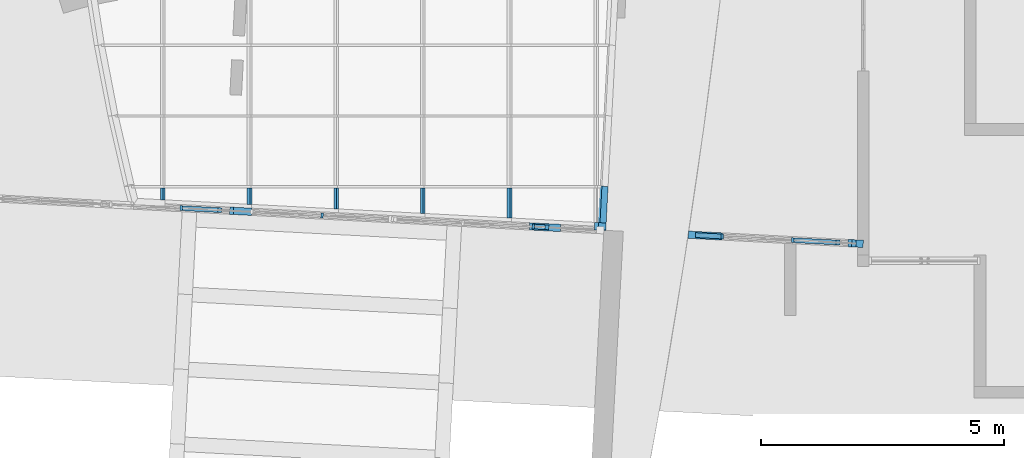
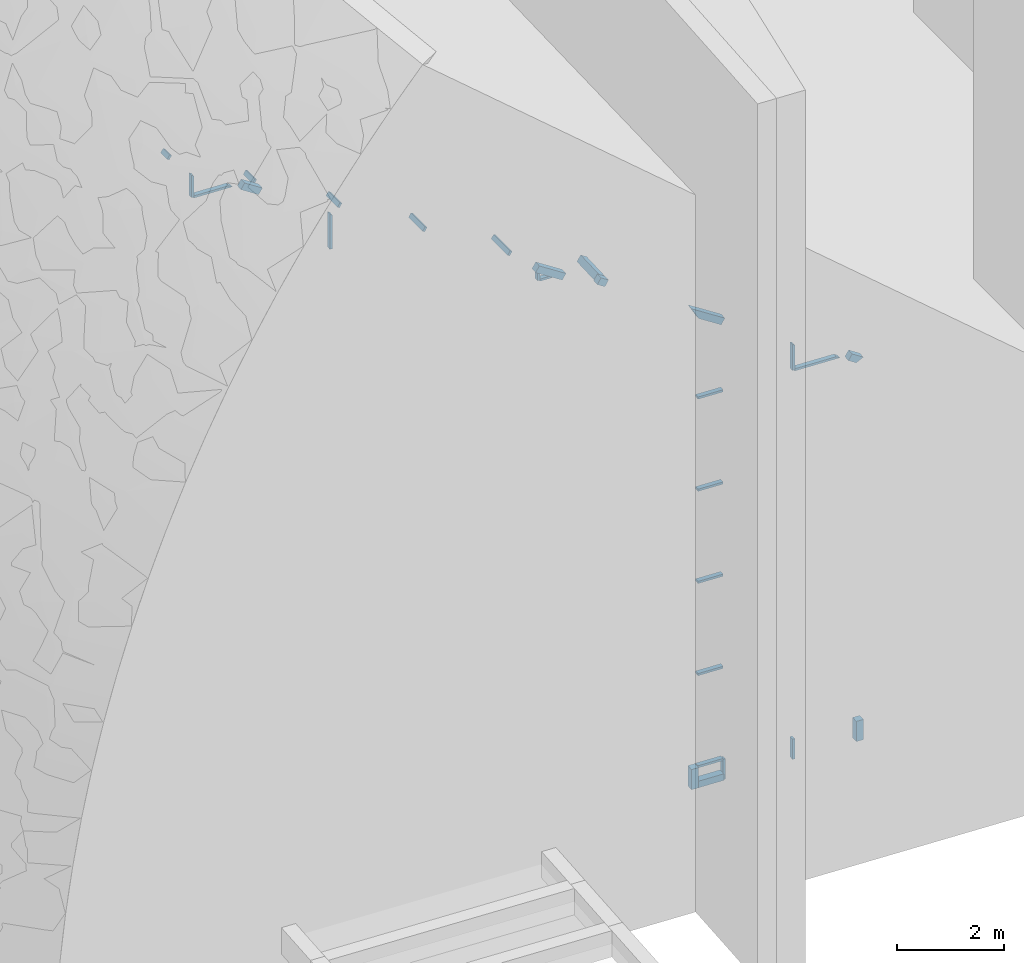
# One storey, part 24 of 82: 28 members, 2 elements without a shape of their own.
"""IFC2X3 building model written with IfcOpenShell, lengths in millimetres."""

import ifcopenshell
import ifcopenshell.guid

model = None  # the IFC model being written
_history = None  # IfcOwnerHistory: only IFC2X3 demands one
_inside = {}  # id of a spatial element -> (the spatial element, [elements in it])
_under = {}  # id of a project, library or spatial element -> (it, [spatial elements below it])
_declared = {}  # id of a project -> (the project, [libraries it declares])
_typed = {}  # id of a type object -> (the type object, [elements of that type])
_made_of = {}  # id of a material, layer set ... -> (it, [elements and type objects made of it])


def new_model(schema):
    """Start an empty IFC model of exactly this schema.

    Asked for "IFC4X3", IfcOpenShell would pick the latest addendum, in which some entities
    have other attributes; the version numbers below select the first issue.
    IFC2X3 requires an IfcOwnerHistory on every rooted entity: one is made here for all.
    """
    global model, _history
    if schema == "IFC4X3":
        model = ifcopenshell.file(schema_version=(4, 3, 0, 0))
    else:
        model = ifcopenshell.file(schema=schema)
    _inside.clear()
    _under.clear()
    _declared.clear()
    _typed.clear()
    _made_of.clear()
    _history = None
    if model.schema == "IFC2X3":
        org = make("IfcOrganization", Name="unknown")
        user = make(
            "IfcPersonAndOrganization",
            ThePerson=make("IfcPerson", FamilyName="unknown"),
            TheOrganization=org,
        )
        app = make(
            "IfcApplication",
            ApplicationDeveloper=org,
            Version="unknown",
            ApplicationFullName="unknown",
            ApplicationIdentifier="unknown",
        )
        _history = make(
            "IfcOwnerHistory",
            OwningUser=user,
            OwningApplication=app,
            ChangeAction="ADDED",
            CreationDate=0,
        )
    return model


def make(cls, **values):
    """One entity of the class cls with the attributes given. An attribute that is None is left unset."""
    return model.create_entity(
        cls, **{name: value for name, value in values.items() if value is not None}
    )


def entity(cls, *values):
    """Any entity or typed value of the class cls, its attributes in the order of the schema. None: left unset."""
    e = model.create_entity(cls)
    for i, value in enumerate(values):
        if value is not None:
            e[i] = value
    return e


def rooted(cls, **values):
    """An entity with a GlobalId (a new one), such as an element, a storey or a relation."""
    return make(cls, GlobalId=ifcopenshell.guid.new(), OwnerHistory=_history, **values)


def si_unit(unit_type, name, prefix=None):
    """IfcSIUnit, for example si_unit("LENGTHUNIT", "METRE", prefix="MILLI")."""
    return make("IfcSIUnit", UnitType=unit_type, Prefix=prefix, Name=name)


def converted_unit(unit_type, name, factor, base, dimensions=None, offset=None):
    """IfcConversionBasedUnit, such as the inch: factor (a typed value) times the base unit."""
    return make(
        "IfcConversionBasedUnit"
        if offset is None
        else "IfcConversionBasedUnitWithOffset",
        ConversionOffset=offset,
        Dimensions=None
        if dimensions is None
        else entity("IfcDimensionalExponents", *dimensions),
        UnitType=unit_type,
        Name=name,
        ConversionFactor=make(
            "IfcMeasureWithUnit", ValueComponent=factor, UnitComponent=base
        ),
    )


def derived_unit(unit_type, elements):
    """IfcDerivedUnit: a product of units, each with its exponent."""
    return make(
        "IfcDerivedUnit",
        Elements=[
            make("IfcDerivedUnitElement", Unit=unit, Exponent=power)
            for unit, power in elements
        ],
        UnitType=unit_type,
    )


def assignment(units):
    """IfcUnitAssignment: the units of a project."""
    return None if units is None else make("IfcUnitAssignment", Units=units)


def point(xyz):
    """IfcCartesianPoint."""
    return None if xyz is None else make("IfcCartesianPoint", Coordinates=xyz)


def direction(xyz):
    """IfcDirection."""
    return None if xyz is None else make("IfcDirection", DirectionRatios=xyz)


def frame(location, z_axis=None, x_axis=None):
    """IfcAxis2Placement3D, a coordinate frame: its origin and axes. An axis left out is left unset."""
    return make(
        "IfcAxis2Placement3D",
        Location=point(location),
        Axis=direction(z_axis),
        RefDirection=direction(x_axis),
    )


def frame_2d(location, x_axis=None):
    """IfcAxis2Placement2D, a coordinate frame in the plane: its origin and x axis."""
    return make(
        "IfcAxis2Placement2D", Location=point(location), RefDirection=direction(x_axis)
    )


def origin():
    """The frame at (0, 0, 0) with its axes left unset."""
    return frame((0.0, 0.0, 0.0))


def origin_2d_with_axis():
    """The frame at (0, 0) in the plane with the x axis (1, 0) written out."""
    return frame_2d((0.0, 0.0), x_axis=(1.0, 0.0))


def place(relative_to, where):
    """IfcLocalPlacement: puts the frame where relative to a parent placement (None: the world)."""
    return make(
        "IfcLocalPlacement", PlacementRelTo=relative_to, RelativePlacement=where
    )


def context(
    kind, dimensions, precision=None, world=None, true_north=None, identifier=None
):
    """IfcGeometricRepresentationContext, for example the 3D "Model" context."""
    return make(
        "IfcGeometricRepresentationContext",
        ContextIdentifier=identifier,
        ContextType=kind,
        CoordinateSpaceDimension=dimensions,
        Precision=precision,
        WorldCoordinateSystem=world,
        TrueNorth=true_north,
    )


def subcontext(parent, identifier, kind, view, scale=None):
    """IfcGeometricRepresentationSubContext, for example "Body" below "Model"."""
    return make(
        "IfcGeometricRepresentationSubContext",
        ContextIdentifier=identifier,
        ContextType=kind,
        ParentContext=parent,
        TargetScale=scale,
        TargetView=view,
    )


def project(units=None, contexts=None):
    """IfcProject with its units and contexts."""
    return rooted(
        "IfcProject",
        Name="project",
        RepresentationContexts=contexts,
        UnitsInContext=assignment(units),
    )


def spatial(cls, under=None, at=None, **own):
    """A site, building, storey or space (cls), placed at a placement, below another one or the project."""
    s = rooted(cls, ObjectPlacement=at, **own)
    if under is not None:
        _under.setdefault(under.id(), (under, []))[1].append(s)
    return s


def polyline(points):
    """IfcPolyline through the points."""
    return make("IfcPolyline", Points=[point(p) for p in points])


def profile(cls, at=None, kind="AREA", **sizes):
    """A parametric profile (cls). Its sizes go by their IFC names, for example OverallWidth=200.0."""
    return make(cls, ProfileType=kind, Position=at, **sizes)


def rectangle(**sizes):
    """IfcRectangleProfileDef."""
    return profile("IfcRectangleProfileDef", **sizes)


def extrude(swept, where, along, depth):
    """IfcExtrudedAreaSolid: the profile swept, set in the frame where, extruded along a direction by depth."""
    return make(
        "IfcExtrudedAreaSolid",
        SweptArea=swept,
        Position=where,
        ExtrudedDirection=direction(along),
        Depth=depth,
    )


def clip(a, b, op="DIFFERENCE"):
    """IfcBooleanClippingResult: the solid a cut by the half space b."""
    return make(
        "IfcBooleanClippingResult", Operator=op, FirstOperand=a, SecondOperand=b
    )


def halfspace(plane, agree):
    """IfcHalfSpaceSolid: all space on one side of the plane z = 0 of the frame plane."""
    return make(
        "IfcHalfSpaceSolid",
        BaseSurface=make("IfcPlane", Position=plane),
        AgreementFlag=agree,
    )


def bounded_halfspace(plane, agree, where, boundary):
    """IfcPolygonalBoundedHalfSpace: a half space limited to a polygon's prism."""
    return make(
        "IfcPolygonalBoundedHalfSpace",
        BaseSurface=make("IfcPlane", Position=plane),
        AgreementFlag=agree,
        Position=where,
        PolygonalBoundary=boundary,
    )


def shape(context_of_items, identifier, shape_type, items):
    """IfcShapeRepresentation: the items that make up one representation, for example the "Body"."""
    return make(
        "IfcShapeRepresentation",
        ContextOfItems=context_of_items,
        RepresentationIdentifier=identifier,
        RepresentationType=shape_type,
        Items=items,
    )


def source(mapping_origin, context_of_items, identifier, shape_type, items):
    """IfcRepresentationMap: a shape defined once, which mapped items show again and again."""
    return make(
        "IfcRepresentationMap",
        MappingOrigin=mapping_origin,
        MappedRepresentation=shape(context_of_items, identifier, shape_type, items),
    )


def transform(
    local_origin,
    x_axis=None,
    y_axis=None,
    z_axis=None,
    scale=None,
    scale2=None,
    scale3=None,
    uniform=True,
):
    """IfcCartesianTransformationOperator3D, or its non-uniform kind. x_axis, y_axis, z_axis: its Axis1, 2, 3."""
    if uniform:
        return make(
            "IfcCartesianTransformationOperator3D",
            Axis1=direction(x_axis),
            Axis2=direction(y_axis),
            LocalOrigin=point(local_origin),
            Scale=scale,
            Axis3=direction(z_axis),
        )
    return make(
        "IfcCartesianTransformationOperator3DnonUniform",
        Axis1=direction(x_axis),
        Axis2=direction(y_axis),
        LocalOrigin=point(local_origin),
        Scale=scale,
        Axis3=direction(z_axis),
        Scale2=scale2,
        Scale3=scale3,
    )


def mapped(mapping_source, mapping_target):
    """IfcMappedItem: shows the shape of a source again, moved by a transform."""
    return make(
        "IfcMappedItem", MappingSource=mapping_source, MappingTarget=mapping_target
    )


def material(Name=None, Category=None):
    """IfcMaterial."""
    return make("IfcMaterial", Name=Name, Category=Category)


def made_of(thing, what):
    """Note that an element or type object is made of a material, layer set ...; save() writes the relation."""
    if what is not None:
        _made_of.setdefault(what.id(), (what, []))[1].append(thing)
    return thing


def type_object(cls, material=None, **own):
    """A type object (cls), such as IfcWallType, which elements share."""
    return made_of(rooted(cls, **own), material)


def type_shapes(of_type, sources):
    """Give a type object the sources (RepresentationMaps) that its elements show as mapped items."""
    of_type.RepresentationMaps = sources


def element(
    cls,
    number,
    at=None,
    inside=None,
    cuts=None,
    type_object=None,
    material=None,
    context=None,
    identifier="Body",
    shape_type=None,
    held_by="IfcProductDefinitionShape",
    body=None,
    shapes=None,
    **own,
):
    """One element of the class cls, such as IfcWall. Its Tag is "e" and its number.

    at: its placement. inside: the storey or other place that contains it. cuts: it is an
    opening in that element (IfcRelVoidsElement). A single representation is given by context,
    identifier, shape_type and body (its items); several are given by shapes. held_by: the class
    of the entity that holds the representations. save() writes the other relations.
    """
    e = rooted(cls, Tag="e%d" % number, ObjectPlacement=at, **own)
    if body is not None:
        shapes = [shape(context, identifier, shape_type, body)]
    if shapes is not None:
        e.Representation = make(held_by, Representations=shapes)
    if inside is not None:
        _inside.setdefault(inside.id(), (inside, []))[1].append(e)
    if cuts is not None:
        rooted(
            "IfcRelVoidsElement", RelatingBuildingElement=cuts, RelatedOpeningElement=e
        )
    if type_object is not None:
        _typed.setdefault(type_object.id(), (type_object, []))[1].append(e)
    return made_of(e, material)


def aggregate(whole, parts):
    """IfcRelAggregates: a whole, such as a stair, and the parts it consists of."""
    return rooted("IfcRelAggregates", RelatingObject=whole, RelatedObjects=parts)


def save(model, path):
    """Write the relations noted so far, then the file.

    IfcRelAggregates (storeys below a building ...), IfcRelContainedInSpatialStructure (elements
    in a storey), IfcRelDefinesByType, IfcRelAssociatesMaterial and IfcRelDeclares: one each for
    every whole, place, type object, material and project.
    """
    for whole, parts in _under.values():
        aggregate(whole, parts)
    for where, things in _inside.values():
        rooted(
            "IfcRelContainedInSpatialStructure",
            RelatedElements=things,
            RelatingStructure=where,
        )
    for kind, things in _typed.values():
        rooted("IfcRelDefinesByType", RelatedObjects=things, RelatingType=kind)
    for what, things in _made_of.values():
        rooted("IfcRelAssociatesMaterial", RelatedObjects=things, RelatingMaterial=what)
    for by, libraries in _declared.values():
        rooted("IfcRelDeclares", RelatingContext=by, RelatedDefinitions=libraries)
    model.write(path)


model = new_model("IFC2X3")

# Units and contexts
model_context = context("Model", 3, precision=0.01, world=origin(), true_north=direction((6.12303176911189e-17, 1.0)))
body_context = subcontext(model_context, "Body", "Model", "MODEL_VIEW")
ifc_project = project(units=[si_unit("LENGTHUNIT", "METRE", prefix="MILLI"), si_unit("AREAUNIT", "SQUARE_METRE"), si_unit("VOLUMEUNIT", "CUBIC_METRE"), converted_unit("PLANEANGLEUNIT", "DEGREE", entity("IfcRatioMeasure", 0.0174532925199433), si_unit("PLANEANGLEUNIT", "RADIAN"), dimensions=[0, 0, 0, 0, 0, 0, 0]), si_unit("MASSUNIT", "GRAM", prefix="KILO"), derived_unit("MASSDENSITYUNIT", [(si_unit("MASSUNIT", "GRAM", prefix="KILO"), 1), (si_unit("LENGTHUNIT", "METRE"), -3)]), si_unit("TIMEUNIT", "SECOND"), si_unit("FREQUENCYUNIT", "HERTZ"), si_unit("THERMODYNAMICTEMPERATUREUNIT", "DEGREE_CELSIUS"), derived_unit("THERMALTRANSMITTANCEUNIT", [(si_unit("MASSUNIT", "GRAM", prefix="KILO"), 1), (si_unit("THERMODYNAMICTEMPERATUREUNIT", "KELVIN"), -1), (si_unit("TIMEUNIT", "SECOND"), -3)]), derived_unit("VOLUMETRICFLOWRATEUNIT", [(si_unit("LENGTHUNIT", "METRE"), 3), (si_unit("TIMEUNIT", "SECOND"), -1)]), si_unit("ELECTRICCURRENTUNIT", "AMPERE"), si_unit("ELECTRICVOLTAGEUNIT", "VOLT"), si_unit("POWERUNIT", "WATT"), si_unit("FORCEUNIT", "NEWTON", prefix="KILO"), si_unit("ILLUMINANCEUNIT", "LUX"), si_unit("LUMINOUSFLUXUNIT", "LUMEN"), si_unit("LUMINOUSINTENSITYUNIT", "CANDELA"), derived_unit("USERDEFINED", [(si_unit("MASSUNIT", "GRAM", prefix="KILO"), -1), (si_unit("LENGTHUNIT", "METRE"), -2), (si_unit("TIMEUNIT", "SECOND"), 3), (si_unit("LUMINOUSFLUXUNIT", "LUMEN"), 1)]), derived_unit("LINEARVELOCITYUNIT", [(si_unit("LENGTHUNIT", "METRE"), 1), (si_unit("TIMEUNIT", "SECOND"), -1)]), si_unit("PRESSUREUNIT", "PASCAL"), derived_unit("USERDEFINED", [(si_unit("LENGTHUNIT", "METRE"), -2), (si_unit("MASSUNIT", "GRAM", prefix="KILO"), 1), (si_unit("TIMEUNIT", "SECOND"), -2)])], contexts=[model_context])

# Site, building, storey
site_placement = place(None, origin())
site = spatial("IfcSite", under=ifc_project, at=site_placement, Name="表面", CompositionType="ELEMENT")
building_placement = place(site_placement, origin())
building = spatial("IfcBuilding", under=site, at=building_placement, CompositionType="ELEMENT")
storey_placement = place(building_placement, origin())
storey = spatial("IfcBuildingStorey", under=building, at=storey_placement, Name="1F", CompositionType="ELEMENT", Elevation=0.0)

# Curtain wall, members
curtain_wall_type = type_object("IfcCurtainWallType", Name="幕墙系统:1450 x 2100mm", PredefinedType="NOTDEFINED")
curtain_wall_1_placement = place(storey_placement, origin())
curtain_wall_1 = element("IfcCurtainWall", 1, at=curtain_wall_1_placement, inside=storey, type_object=curtain_wall_type, Name="幕墙系统:1450 x 2100mm", ObjectType="幕墙系统:1450 x 2100mm")
ifc_material_1 = material(Name="木质 - 木材")
member_type_1 = type_object("IfcMemberType", Name="200 x 150mm", PredefinedType="MEMBER")
shared_shape_1 = source(origin(), body_context, "Body", "SweptSolid", [
    extrude(rectangle(XDim=150.0, YDim=150.0, at=origin_2d_with_axis()), frame((-75.0, 0.0, -525.86937942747), z_axis=(0.0, 0.0, 1.0), x_axis=(0.0, -1.0, 0.0)), (0.0, 0.0, 1.0), 525.86937942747),
])
type_shapes(member_type_1, [shared_shape_1])
member_1_placement = place(storey_placement, frame((-17876.3899955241, -28886.2638778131, 0.0), z_axis=(-0.998629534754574, 0.0523359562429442, 0.0), x_axis=(0.0, 0.0, -1.0)))
member_1 = element("IfcMember", 2, at=member_1_placement, type_object=member_type_1, material=ifc_material_1, Name="矩形竖梃:200 x 150mm", ObjectType="200 x 150mm", context=body_context, shape_type="MappedRepresentation", body=[
    mapped(shared_shape_1, transform((0.0, 0.0, 0.0), scale=1.0)),
])
member_type_2 = type_object("IfcMemberType", Name="200 x 150mm", PredefinedType="MEMBER")
shared_shape_2 = source(origin(), body_context, "Body", "Clipping", [
    clip(extrude(rectangle(XDim=150.0, YDim=150.0, at=origin_2d_with_axis()), frame((-75.0, 0.0, -277.654315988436), z_axis=(0.0, 0.0, 1.0), x_axis=(0.0, -1.0, 0.0)), (0.0, 0.0, 1.0), 277.654315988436), halfspace(frame((0.0, -304.800000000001, 0.0), z_axis=(-0.485079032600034, 0.0, 0.874470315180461), x_axis=(-0.874470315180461, 0.0, -0.485079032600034)), False)),
])
type_shapes(member_type_2, [shared_shape_2])
placement_1 = place(building_placement, frame((0.0, 0.0, 6000.0)))
member_2_placement = place(placement_1, frame((-14430.2499126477, -29066.868426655, 2713.2178420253), z_axis=(0.847211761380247, -0.0444004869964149, -0.529396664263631), x_axis=(0.528671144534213, -0.0277064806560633, 0.848374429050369)))
member_2 = element("IfcMember", 3, at=member_2_placement, type_object=member_type_2, material=ifc_material_1, Name="矩形竖梃:200 x 150mm", ObjectType="200 x 150mm", context=body_context, shape_type="MappedRepresentation", body=[
    mapped(shared_shape_2, transform((0.0, 0.0, 0.0), scale=1.0)),
])
member_type_3 = type_object("IfcMemberType", Name="200 x 150mm", PredefinedType="MEMBER")
shared_shape_3 = source(origin(), body_context, "Body", "SweptSolid", [
    extrude(rectangle(XDim=150.0, YDim=150.0, at=origin_2d_with_axis()), frame((-75.0, 0.0, -460.207110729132), z_axis=(0.0, 0.0, 1.0), x_axis=(0.0, -1.0, 0.0)), (0.0, 0.0, 1.0), 460.207110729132),
])
type_shapes(member_type_3, [shared_shape_3])
member_3_placement = place(storey_placement, frame((-14430.2499126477, -29066.868426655, 0.0), z_axis=(0.0, 0.0, -1.0), x_axis=(0.998629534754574, -0.0523359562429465, 0.0)))
member_3 = element("IfcMember", 4, at=member_3_placement, type_object=member_type_3, material=ifc_material_1, Name="矩形竖梃:200 x 150mm", ObjectType="200 x 150mm", context=body_context, shape_type="MappedRepresentation", body=[
    mapped(shared_shape_3, transform((0.0, 0.0, 0.0), scale=1.0)),
])
member_type_4 = type_object("IfcMemberType", Name="200 x 150mm", PredefinedType="MEMBER")
shared_shape_4 = source(origin(), body_context, "Body", "SweptSolid", [
    extrude(rectangle(XDim=150.0, YDim=150.0, at=origin_2d_with_axis()), frame((-75.0, 0.0, -460.207110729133), z_axis=(0.0, 0.0, 1.0), x_axis=(0.0, -1.0, 0.0)), (0.0, 0.0, 1.0), 460.207110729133),
])
type_shapes(member_type_4, [shared_shape_4])
member_4_placement = place(storey_placement, frame((-18026.1844257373, -28878.4134843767, 460.207110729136), z_axis=(0.0, 0.0, 1.0), x_axis=(-0.998629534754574, 0.0523359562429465, 0.0)))
member_4 = element("IfcMember", 5, at=member_4_placement, type_object=member_type_4, material=ifc_material_1, Name="矩形竖梃:200 x 150mm", ObjectType="200 x 150mm", context=body_context, shape_type="MappedRepresentation", body=[
    mapped(shared_shape_4, transform((0.0, 0.0, 0.0), scale=1.0)),
])
ifc_material_2 = material(Name="金属 - 铝")
member_type_5 = type_object("IfcMemberType", Name="50 x 100mm", PredefinedType="MEMBER")
shared_shape_5 = source(origin(), body_context, "Body", "SweptSolid", [
    extrude(rectangle(XDim=100.0, YDim=50.0, at=origin_2d_with_axis()), frame((0.0, 0.0, -460.207110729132), z_axis=(0.0, 0.0, 1.0), x_axis=(0.0, -1.0, 0.0)), (0.0, 0.0, 1.0), 460.207110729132),
])
type_shapes(member_type_5, [shared_shape_5])
member_5_placement = place(storey_placement, frame((-15878.2627380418, -28990.9812901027, 460.207110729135), z_axis=(0.0, 0.0, 1.0), x_axis=(-0.998629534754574, 0.0523359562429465, 0.0)))
member_5 = element("IfcMember", 6, at=member_5_placement, type_object=member_type_5, material=ifc_material_2, Name="矩形竖梃:50 x 100mm", ObjectType="50 x 100mm", context=body_context, shape_type="MappedRepresentation", body=[
    mapped(shared_shape_5, transform((0.0, 0.0, 0.0), scale=1.0)),
])
member_6_placement = place(storey_placement, frame((-17326.2755634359, -28915.0941535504, 460.207110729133), z_axis=(0.0, 0.0, 1.0), x_axis=(-0.998629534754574, 0.0523359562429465, 0.0)))
member_6 = element("IfcMember", 7, at=member_6_placement, type_object=member_type_5, material=ifc_material_2, Name="矩形竖梃:50 x 100mm", ObjectType="50 x 100mm", context=body_context, shape_type="MappedRepresentation", body=[
    mapped(shared_shape_5, transform((0.0, 0.0, 0.0), scale=1.0)),
])
member_type_6 = type_object("IfcMemberType", Name="50 x 100mm", PredefinedType="MEMBER")
shared_shape_6 = source(origin(), body_context, "Body", "Clipping", [
    clip(extrude(rectangle(XDim=100.0, YDim=50.0, at=origin_2d_with_axis()), frame((0.0, 0.0, -757.829567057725), z_axis=(0.0, 0.0, 1.0), x_axis=(0.0, -1.0, 0.0)), (0.0, 0.0, 1.0), 596.621168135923), halfspace(frame((-1135.03567856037, 75.0, -885.08573141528), z_axis=(-0.529396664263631, 0.0, 0.848374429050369), x_axis=(0.848374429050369, 0.0, 0.529396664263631)), False)),
])
type_shapes(member_type_6, [shared_shape_6])
member_7_placement = place(placement_1, frame((-15878.2627380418, -28990.9812901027, 3618.0366777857), z_axis=(0.0, 0.0, 1.0), x_axis=(-0.998629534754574, 0.0523359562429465, 0.0)))
member_7 = element("IfcMember", 8, at=member_7_placement, type_object=member_type_6, material=ifc_material_2, Name="矩形竖梃:50 x 100mm", ObjectType="50 x 100mm", context=body_context, shape_type="MappedRepresentation", body=[
    mapped(shared_shape_6, transform((0.0, 0.0, 0.0), scale=1.0)),
])
member_type_7 = type_object("IfcMemberType", Name="50 x 100mm", PredefinedType="MEMBER")
shared_shape_7 = source(origin(), body_context, "Body", "SweptSolid", [
    extrude(rectangle(XDim=100.0, YDim=50.0, at=origin_2d_with_axis()), frame((0.0, 0.0, -525.869379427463), z_axis=(0.0, 0.0, 1.0), x_axis=(0.0, -1.0, 0.0)), (0.0, 0.0, 1.0), 525.869379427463),
])
type_shapes(member_type_7, [shared_shape_7])
member_8_placement = place(storey_placement, frame((-17351.2413018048, -28913.7857546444, 460.207110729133), z_axis=(0.998629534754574, -0.0523359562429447, 0.0), x_axis=(0.0, 0.0, 1.0)))
member_8 = element("IfcMember", 9, at=member_8_placement, type_object=member_type_7, material=ifc_material_2, Name="矩形竖梃:50 x 100mm", ObjectType="50 x 100mm", context=body_context, shape_type="MappedRepresentation", body=[
    mapped(shared_shape_7, transform((0.0, 0.0, 0.0), scale=1.0)),
])
member_9_placement = place(storey_placement, frame((-17351.2413018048, -28913.7857546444, 2560.20711072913), z_axis=(0.998629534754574, -0.0523359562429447, 0.0), x_axis=(0.0, 0.0, 1.0)))
member_9 = element("IfcMember", 10, at=member_9_placement, type_object=member_type_7, material=ifc_material_2, Name="矩形竖梃:50 x 100mm", ObjectType="50 x 100mm", context=body_context, shape_type="MappedRepresentation", body=[
    mapped(shared_shape_7, transform((0.0, 0.0, 0.0), scale=1.0)),
])
placement_2 = place(building_placement, frame((0.0, 0.0, 3000.0)))
member_10_placement = place(placement_2, frame((-17351.2413018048, -28913.7857546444, 1660.20711072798), z_axis=(0.998629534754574, -0.0523359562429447, 0.0), x_axis=(0.0, 0.0, 1.0)))
member_10 = element("IfcMember", 11, at=member_10_placement, type_object=member_type_7, material=ifc_material_2, Name="矩形竖梃:50 x 100mm", ObjectType="50 x 100mm", context=body_context, shape_type="MappedRepresentation", body=[
    mapped(shared_shape_7, transform((0.0, 0.0, 0.0), scale=1.0)),
])
member_11_placement = place(placement_1, frame((-17351.2413018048, -28913.7857546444, 760.20711072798), z_axis=(0.998629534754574, -0.0523359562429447, 0.0), x_axis=(0.0, 0.0, 1.0)))
member_11 = element("IfcMember", 12, at=member_11_placement, type_object=member_type_7, material=ifc_material_2, Name="矩形竖梃:50 x 100mm", ObjectType="50 x 100mm", context=body_context, shape_type="MappedRepresentation", body=[
    mapped(shared_shape_7, transform((0.0, 0.0, 0.0), scale=1.0)),
])
member_12_placement = place(placement_1, frame((-17351.2413018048, -28913.7857546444, 2860.20711072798), z_axis=(0.998629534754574, -0.0523359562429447, 0.0), x_axis=(0.0, 0.0, 1.0)))
member_12 = element("IfcMember", 13, at=member_12_placement, type_object=member_type_7, material=ifc_material_2, Name="矩形竖梃:50 x 100mm", ObjectType="50 x 100mm", context=body_context, shape_type="MappedRepresentation", body=[
    mapped(shared_shape_7, transform((0.0, 0.0, 0.0), scale=1.0)),
])
member_type_8 = type_object("IfcMemberType", Name="200 x 150mm", PredefinedType="MEMBER")
shared_shape_8 = source(origin(), body_context, "Body", "Clipping", [
    clip(extrude(rectangle(XDim=150.0, YDim=150.0, at=frame_2d((-2.1316282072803e-14, -8.5265128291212e-14), x_axis=(1.0, 0.0))), frame((-75.0, 0.0, -826.132136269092), z_axis=(0.0, 0.0, 1.0), x_axis=(0.0, -1.0, 0.0)), (0.0, 0.0, 1.0), 826.132136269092), halfspace(frame((0.0, -304.800000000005, -826.132136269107), z_axis=(-0.874470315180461, 0.0, -0.485079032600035), x_axis=(-0.485079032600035, 0.0, 0.874470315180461)), False)),
])
type_shapes(member_type_8, [shared_shape_8])
placement_3 = place(building_placement, frame((0.0, 0.0, 9000.0)))
member_13_placement = place(placement_3, frame((-17326.2755634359, -28915.0941535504, 1522.85551354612), z_axis=(0.847211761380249, -0.0444004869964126, -0.529396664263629), x_axis=(0.528671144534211, -0.0277064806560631, 0.848374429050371)))
member_13 = element("IfcMember", 14, at=member_13_placement, type_object=member_type_8, material=ifc_material_1, Name="矩形竖梃:200 x 150mm", ObjectType="200 x 150mm", context=body_context, shape_type="MappedRepresentation", body=[
    mapped(shared_shape_8, transform((0.0, 0.0, 0.0), scale=1.0)),
])
member_type_9 = type_object("IfcMemberType", Name="50 x 100mm", PredefinedType="MEMBER")
shared_shape_9 = source(origin(), body_context, "Body", "Clipping", [
    clip(extrude(rectangle(XDim=100.0, YDim=50.0, at=frame_2d((-1.77635683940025e-14, 0.0), x_axis=(1.0, 0.0))), frame((0.0, 0.0, -1189.44517819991), z_axis=(0.0, 0.0, 1.0), x_axis=(0.0, -1.0, 0.0)), (0.0, 0.0, 1.0), 946.167031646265), halfspace(frame((-127.256164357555, 75.0, -79.4094996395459), z_axis=(0.848374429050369, 0.0, 0.529396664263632), x_axis=(0.529396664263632, 0.0, -0.848374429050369)), False)),
])
type_shapes(member_type_9, [shared_shape_9])
member_14_placement = place(placement_1, frame((-14665.4819147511, -29054.5404398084, 2860.20711072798), z_axis=(0.998629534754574, -0.0523359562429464, 0.0), x_axis=(0.0, 0.0, 1.0)))
member_14 = element("IfcMember", 15, at=member_14_placement, type_object=member_type_9, material=ifc_material_2, Name="矩形竖梃:50 x 100mm", ObjectType="50 x 100mm", context=body_context, shape_type="MappedRepresentation", body=[
    mapped(shared_shape_9, transform((0.0, 0.0, 0.0), scale=1.0)),
])
aggregate(curtain_wall_1, [member_1, member_2, member_3, member_4, member_5, member_7, member_8, member_9, member_10, member_11, member_12, member_13, member_6, member_14])

curtain_wall_2_placement = place(storey_placement, origin())
curtain_wall_2 = element("IfcCurtainWall", 16, at=curtain_wall_2_placement, inside=storey, type_object=curtain_wall_type, Name="幕墙系统:1450 x 2100mm", ObjectType="幕墙系统:1450 x 2100mm")
member_type_10 = type_object("IfcMemberType", Name="200 x 150mm", PredefinedType="MEMBER")
shared_shape_10 = source(origin(), body_context, "Body", "Clipping", [
    clip(extrude(rectangle(XDim=150.0, YDim=150.0, at=origin_2d_with_axis()), frame((-75.0, 0.0, -900.327037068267), z_axis=(0.0, 0.0, 1.0), x_axis=(0.0, -1.0, 0.0)), (0.0, 0.0, 1.0), 900.327037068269), halfspace(frame((0.0, -304.8, 0.0), z_axis=(-0.700962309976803, 0.0, 0.713198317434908), x_axis=(-0.713198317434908, 0.0, -0.700962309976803)), False)),
])
type_shapes(member_type_10, [shared_shape_10])
member_15_placement = place(placement_3, frame((-19760.6132546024, -28787.5159211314, 3043.99852895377), z_axis=(-0.0523079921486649, -0.998095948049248, 0.032685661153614), x_axis=(0.846433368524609, -0.0616804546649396, -0.528910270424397)))
member_15 = element("IfcMember", 17, at=member_15_placement, type_object=member_type_10, material=ifc_material_1, Name="矩形竖梃:200 x 150mm", ObjectType="200 x 150mm", context=body_context, shape_type="MappedRepresentation", body=[
    mapped(shared_shape_10, transform((0.0, 0.0, 0.0), scale=1.0)),
])
member_type_11 = type_object("IfcMemberType", Name="200 x 150mm", PredefinedType="MEMBER")
shared_shape_11 = source(origin(), body_context, "Body", "SweptSolid", [
    extrude(rectangle(XDim=150.0, YDim=150.0, at=frame_2d((-7.105427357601e-15, 0.0), x_axis=(1.0, 0.0))), frame((-75.0, 0.0, -187.06817542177), z_axis=(0.0, 0.0, 1.0), x_axis=(0.0, -1.0, 0.0)), (0.0, 0.0, 1.0), 187.068175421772),
])
type_shapes(member_type_11, [shared_shape_11])
member_16_placement = place(placement_3, frame((-19919.0996129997, -28779.2100030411, 3143.03179701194), z_axis=(-0.847211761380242, 0.0444004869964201, 0.52939666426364), x_axis=(-0.0376537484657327, -0.999013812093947, 0.0235286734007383)))
member_16 = element("IfcMember", 18, at=member_16_placement, type_object=member_type_11, material=ifc_material_1, Name="矩形竖梃:200 x 150mm", ObjectType="200 x 150mm", context=body_context, shape_type="MappedRepresentation", body=[
    mapped(shared_shape_11, transform((0.0, 0.0, 0.0), scale=1.0)),
])
member_type_12 = type_object("IfcMemberType", Name="50 x 100mm", PredefinedType="MEMBER")
shared_shape_12 = source(origin(), body_context, "Body", "Clipping", [
    clip(clip(extrude(rectangle(XDim=100.0, YDim=50.0, at=origin_2d_with_axis()), frame((0.0, 0.0, -622.936816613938), z_axis=(0.0, 0.0, 1.0), x_axis=(0.0, -1.0, 0.0)), (0.0, 0.0, 1.0), 622.936816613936), bounded_halfspace(frame((-6.6600730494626, 75.0, -622.121711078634), z_axis=(0.0444004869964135, 0.0, -0.999013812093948), x_axis=(-0.999013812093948, 0.0, -0.0444004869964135)), False, frame((0.0, 0.0, -622.936816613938), z_axis=(0.0, 0.0, 1.0), x_axis=(0.0, -1.0, 0.0)), polyline([(50.0, -6.66007304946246), (50.0, -25.0), (-50.0, -25.0), (-50.0, -6.66007304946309), (50.0, -6.66007304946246)]))), bounded_halfspace(frame((2093.33992695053, 75.0, -528.788644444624), z_axis=(0.0444004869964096, 0.0, -0.999013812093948), x_axis=(-0.999013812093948, 0.0, -0.0444004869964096)), False, frame((0.0, 0.0, -622.936816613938), z_axis=(0.0, 0.0, 1.0), x_axis=(0.0, -1.0, 0.0)), polyline([(-50.0, 25.0), (50.0, 25.0), (50.0, -6.66007304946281), (-50.0, -6.66007304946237), (-50.0, 25.0)]))),
])
type_shapes(member_type_12, [shared_shape_12])
member_17_placement = place(placement_3, frame((-21700.0006149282, -27913.9031535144, 4255.86225190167), z_axis=(0.0, 1.0, 0.0), x_axis=(-0.848048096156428, 0.0, 0.529919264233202)))
member_17 = element("IfcMember", 19, at=member_17_placement, type_object=member_type_12, material=ifc_material_2, Name="矩形竖梃:50 x 100mm", ObjectType="50 x 100mm", context=body_context, shape_type="MappedRepresentation", body=[
    mapped(shared_shape_12, transform((0.0, 0.0, 0.0), scale=1.0)),
])
member_type_13 = type_object("IfcMemberType", Name="50 x 100mm", PredefinedType="MEMBER")
shared_shape_13 = source(origin(), body_context, "Body", "Clipping", [
    clip(clip(extrude(rectangle(XDim=100.0, YDim=50.0, at=origin_2d_with_axis()), frame((0.0, 0.0, -529.603749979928), z_axis=(0.0, 0.0, 1.0), x_axis=(0.0, -1.0, 0.0)), (0.0, 0.0, 1.0), 529.603749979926), bounded_halfspace(frame((-6.66007304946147, 75.0, -528.788644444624), z_axis=(0.0444004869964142, 0.0, -0.999013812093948), x_axis=(-0.999013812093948, 0.0, -0.0444004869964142)), False, frame((0.0, 0.0, -529.603749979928), z_axis=(0.0, 0.0, 1.0), x_axis=(0.0, -1.0, 0.0)), polyline([(50.0, -6.6600730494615), (50.0, -25.0), (-50.0, -25.0), (-50.0, -6.66007304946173), (50.0, -6.6600730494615)]))), bounded_halfspace(frame((2093.33992695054, 75.0, -435.455577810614), z_axis=(0.0444004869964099, 0.0, -0.999013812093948), x_axis=(-0.999013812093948, 0.0, -0.0444004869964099)), False, frame((0.0, 0.0, -529.603749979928), z_axis=(0.0, 0.0, 1.0), x_axis=(0.0, -1.0, 0.0)), polyline([(-50.0, 25.0), (50.0, 25.0), (50.0, -6.66007304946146), (-50.0, -6.66007304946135), (-50.0, 25.0)]))),
])
type_shapes(member_type_13, [shared_shape_13])
member_18_placement = place(placement_3, frame((-23480.9016168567, -27913.9031535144, 5368.69270679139), z_axis=(0.0, 1.0, 0.0), x_axis=(-0.848048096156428, 0.0, 0.529919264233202)))
member_18 = element("IfcMember", 20, at=member_18_placement, type_object=member_type_13, material=ifc_material_2, Name="矩形竖梃:50 x 100mm", ObjectType="50 x 100mm", context=body_context, shape_type="MappedRepresentation", body=[
    mapped(shared_shape_13, transform((0.0, 0.0, 0.0), scale=1.0)),
])
member_type_14 = type_object("IfcMemberType", Name="50 x 100mm", PredefinedType="MEMBER")
shared_shape_14 = source(origin(), body_context, "Body", "Clipping", [
    clip(clip(extrude(rectangle(XDim=100.0, YDim=50.0, at=origin_2d_with_axis()), frame((0.0, 0.0, -436.270683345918), z_axis=(0.0, 0.0, 1.0), x_axis=(0.0, -1.0, 0.0)), (0.0, 0.0, 1.0), 436.270683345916), bounded_halfspace(frame((-6.6600730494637, 75.0, -435.455577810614), z_axis=(0.0444004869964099, 0.0, -0.999013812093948), x_axis=(-0.999013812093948, 0.0, -0.0444004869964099)), False, frame((0.0, 0.0, -436.270683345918), z_axis=(0.0, 0.0, 1.0), x_axis=(0.0, -1.0, 0.0)), polyline([(50.0, -6.66007304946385), (50.0, -25.0), (-50.0, -25.0), (-50.0, -6.6600730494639), (50.0, -6.66007304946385)]))), bounded_halfspace(frame((2093.33992695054, 75.0, -342.122511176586), z_axis=(0.0444004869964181, 0.0, -0.999013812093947), x_axis=(-0.999013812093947, 0.0, -0.0444004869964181)), False, frame((0.0, 0.0, -436.270683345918), z_axis=(0.0, 0.0, 1.0), x_axis=(0.0, -1.0, 0.0)), polyline([(-50.0, 25.0), (50.0, 25.0), (50.0, -6.66007304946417), (-50.0, -6.66007304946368), (-50.0, 25.0)]))),
])
type_shapes(member_type_14, [shared_shape_14])
member_19_placement = place(placement_3, frame((-25261.8026187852, -27913.9031535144, 6481.52316168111), z_axis=(0.0, 1.0, 0.0), x_axis=(-0.848048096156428, 0.0, 0.529919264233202)))
member_19 = element("IfcMember", 21, at=member_19_placement, type_object=member_type_14, material=ifc_material_2, Name="矩形竖梃:50 x 100mm", ObjectType="50 x 100mm", context=body_context, shape_type="MappedRepresentation", body=[
    mapped(shared_shape_14, transform((0.0, 0.0, 0.0), scale=1.0)),
])
member_type_15 = type_object("IfcMemberType", Name="50 x 100mm", PredefinedType="MEMBER")
shared_shape_15 = source(origin(), body_context, "Body", "Clipping", [
    clip(clip(extrude(rectangle(XDim=100.0, YDim=50.0, at=origin_2d_with_axis()), frame((0.0, 0.0, -342.93761671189), z_axis=(0.0, 0.0, 1.0), x_axis=(0.0, -1.0, 0.0)), (0.0, 0.0, 1.0), 342.937616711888), bounded_halfspace(frame((-6.66007304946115, 75.0, -342.122511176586), z_axis=(0.044400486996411, 0.0, -0.999013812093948), x_axis=(-0.999013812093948, 0.0, -0.044400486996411)), False, frame((0.0, 0.0, -342.93761671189), z_axis=(0.0, 0.0, 1.0), x_axis=(0.0, -1.0, 0.0)), polyline([(50.0, -6.66007304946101), (50.0, -25.0), (-50.0, -25.0), (-50.0, -6.66007304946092), (50.0, -6.66007304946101)]))), bounded_halfspace(frame((2093.33992695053, 75.0, -248.789444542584), z_axis=(0.0444004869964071, 0.0, -0.999013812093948), x_axis=(-0.999013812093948, 0.0, -0.0444004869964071)), False, frame((0.0, 0.0, -342.93761671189), z_axis=(0.0, 0.0, 1.0), x_axis=(0.0, -1.0, 0.0)), polyline([(-50.0, 25.0), (50.0, 25.0), (50.0, -6.66007304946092), (-50.0, -6.66007304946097), (-50.0, 25.0)]))),
])
type_shapes(member_type_15, [shared_shape_15])
member_20_placement = place(placement_3, frame((-27042.7036207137, -27913.9031535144, 7594.35361657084), z_axis=(0.0, 1.0, 0.0), x_axis=(-0.848048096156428, 0.0, 0.529919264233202)))
member_20 = element("IfcMember", 22, at=member_20_placement, type_object=member_type_15, material=ifc_material_2, Name="矩形竖梃:50 x 100mm", ObjectType="50 x 100mm", context=body_context, shape_type="MappedRepresentation", body=[
    mapped(shared_shape_15, transform((0.0, 0.0, 0.0), scale=1.0)),
])
member_type_16 = type_object("IfcMemberType", Name="50 x 100mm", PredefinedType="MEMBER")
shared_shape_16 = source(origin(), body_context, "Body", "Clipping", [
    clip(clip(extrude(rectangle(XDim=100.0, YDim=50.0, at=origin_2d_with_axis()), frame((0.0, 0.0, -249.60455007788), z_axis=(0.0, 0.0, 1.0), x_axis=(0.0, -1.0, 0.0)), (0.0, 0.0, 1.0), 249.604550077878), bounded_halfspace(frame((-6.66007304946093, 75.0, -248.789444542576), z_axis=(0.0444004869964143, 0.0, -0.999013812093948), x_axis=(-0.999013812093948, 0.0, -0.0444004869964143)), False, frame((0.0, 0.0, -249.60455007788), z_axis=(0.0, 0.0, 1.0), x_axis=(0.0, -1.0, 0.0)), polyline([(50.0, -6.6600730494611), (50.0, -25.0), (-50.0, -25.0), (-50.0, -6.66007304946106), (50.0, -6.6600730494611)]))), bounded_halfspace(frame((765.092294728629, 75.0, -214.489437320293), z_axis=(0.044400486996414, 0.0, -0.999013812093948), x_axis=(-0.999013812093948, 0.0, -0.044400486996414)), False, frame((0.0, 0.0, -249.60455007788), z_axis=(0.0, 0.0, 1.0), x_axis=(0.0, -1.0, 0.0)), polyline([(-50.0, 25.0), (50.0, 25.0), (50.0, -6.66007304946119), (-50.0, -6.66007304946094), (-50.0, 25.0)]))),
])
type_shapes(member_type_16, [shared_shape_16])
member_21_placement = place(placement_3, frame((-28823.6046226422, -27913.9031535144, 8707.18407146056), z_axis=(0.0, 1.0, 0.0), x_axis=(-0.848048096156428, 0.0, 0.529919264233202)))
member_21 = element("IfcMember", 23, at=member_21_placement, type_object=member_type_16, material=ifc_material_2, Name="矩形竖梃:50 x 100mm", ObjectType="50 x 100mm", context=body_context, shape_type="MappedRepresentation", body=[
    mapped(shared_shape_16, transform((0.0, 0.0, 0.0), scale=1.0)),
])
member_type_17 = type_object("IfcMemberType", Name="200 x 150mm", PredefinedType="MEMBER")
shared_shape_17 = source(origin(), body_context, "Body", "SweptSolid", [
    extrude(rectangle(XDim=150.0, YDim=150.0, at=origin_2d_with_axis()), frame((-75.0, 0.0, -438.059602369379), z_axis=(0.0, 0.0, 1.0), x_axis=(0.0, -1.0, 0.0)), (0.0, 0.0, 1.0), 438.059602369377),
])
type_shapes(member_type_17, [shared_shape_17])
member_22_placement = place(placement_3, frame((-27000.6773815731, -28408.08023837, 7568.09270775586), z_axis=(0.847211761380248, -0.0444004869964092, -0.529396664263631), x_axis=(0.528671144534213, -0.0277064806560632, 0.84837442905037)))
member_22 = element("IfcMember", 24, at=member_22_placement, type_object=member_type_17, material=ifc_material_1, Name="矩形竖梃:200 x 150mm", ObjectType="200 x 150mm", context=body_context, shape_type="MappedRepresentation", body=[
    mapped(shared_shape_17, transform((0.0, 0.0, 0.0), scale=1.0)),
])
member_type_18 = type_object("IfcMemberType", Name="200 x 150mm", PredefinedType="MEMBER")
shared_shape_18 = source(origin(), body_context, "Body", "SweptSolid", [
    extrude(rectangle(XDim=150.0, YDim=150.0, at=origin_2d_with_axis()), frame((-75.0, 0.0, -658.896038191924), z_axis=(0.0, 0.0, 1.0), x_axis=(0.0, -1.0, 0.0)), (0.0, 0.0, 1.0), 658.896038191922),
])
type_shapes(member_type_18, [shared_shape_18])
member_23_placement = place(placement_3, frame((-20650.4016069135, -28740.8840895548, 3600.0), z_axis=(0.847211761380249, -0.0444004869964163, -0.529396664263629), x_axis=(0.528671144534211, -0.0277064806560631, 0.848374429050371)))
member_23 = element("IfcMember", 25, at=member_23_placement, type_object=member_type_18, material=ifc_material_1, Name="矩形竖梃:200 x 150mm", ObjectType="200 x 150mm", context=body_context, shape_type="MappedRepresentation", body=[
    mapped(shared_shape_18, transform((0.0, 0.0, 0.0), scale=1.0)),
])
member_type_19 = type_object("IfcMemberType", Name="50 x 100mm", PredefinedType="MEMBER")
shared_shape_19 = source(origin(), body_context, "Body", "Clipping", [
    clip(extrude(rectangle(XDim=100.0, YDim=50.0, at=origin_2d_with_axis()), frame((0.0, 0.0, -533.990550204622), z_axis=(0.0, 0.0, 1.0), x_axis=(0.0, -1.0, 0.0)), (0.0, 0.0, 1.0), 290.712403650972), halfspace(frame((-127.256164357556, 75.0, -79.4094996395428), z_axis=(0.848374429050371, 0.0, 0.529396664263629), x_axis=(0.529396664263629, 0.0, -0.848374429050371)), False)),
])
type_shapes(member_type_19, [shared_shape_19])
member_24_placement = place(placement_3, frame((-20650.4016069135, -28740.8840895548, 3600.0), z_axis=(0.998629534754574, -0.0523359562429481, 0.0), x_axis=(0.0, 0.0, 1.0)))
member_24 = element("IfcMember", 26, at=member_24_placement, type_object=member_type_19, material=ifc_material_2, Name="矩形竖梃:50 x 100mm", ObjectType="50 x 100mm", context=body_context, shape_type="MappedRepresentation", body=[
    mapped(shared_shape_19, transform((0.0, 0.0, 0.0), scale=1.0)),
])
member_type_20 = type_object("IfcMemberType", Name="50 x 100mm", PredefinedType="MEMBER")
shared_shape_20 = source(origin(), body_context, "Body", "Clipping", [
    clip(extrude(rectangle(XDim=100.0, YDim=50.0, at=origin_2d_with_axis()), frame((0.0, 0.0, -1053.36143494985), z_axis=(0.0, 0.0, 1.0), x_axis=(0.0, -1.0, 0.0)), (0.0, 0.0, 1.0), 810.083288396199), halfspace(frame((-127.256164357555, 75.0, -79.4094996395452), z_axis=(0.848374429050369, 0.0, 0.529396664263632), x_axis=(0.529396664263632, 0.0, -0.848374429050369)), False)),
])
type_shapes(member_type_20, [shared_shape_20])
member_25_placement = place(placement_3, frame((-27371.8066288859, -28388.6301786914, 7800.0), z_axis=(0.998629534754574, -0.0523359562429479, 0.0), x_axis=(0.0, 0.0, 1.0)))
member_25 = element("IfcMember", 27, at=member_25_placement, type_object=member_type_20, material=ifc_material_2, Name="矩形竖梃:50 x 100mm", ObjectType="50 x 100mm", context=body_context, shape_type="MappedRepresentation", body=[
    mapped(shared_shape_20, transform((0.0, 0.0, 0.0), scale=1.0)),
])
member_type_21 = type_object("IfcMemberType", Name="50 x 100mm", PredefinedType="MEMBER")
shared_shape_21 = source(origin(), body_context, "Body", "Clipping", [
    clip(extrude(rectangle(XDim=100.0, YDim=50.0, at=origin_2d_with_axis()), frame((0.0, 0.0, -348.817364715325), z_axis=(0.0, 0.0, 1.0), x_axis=(0.0, -1.0, 0.0)), (0.0, 0.0, 1.0), 187.608965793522), halfspace(frame((-479.581050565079, 75.0, -476.073529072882), z_axis=(-0.529396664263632, 0.0, 0.848374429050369), x_axis=(0.848374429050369, 0.0, 0.529396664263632)), False)),
])
type_shapes(member_type_21, [shared_shape_21])
member_26_placement = place(placement_3, frame((-21208.6260799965, -28711.6287845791, 3948.81736471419), z_axis=(0.0, 0.0, 1.0), x_axis=(-0.998629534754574, 0.0523359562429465, 0.0)))
member_26 = element("IfcMember", 28, at=member_26_placement, type_object=member_type_21, material=ifc_material_2, Name="矩形竖梃:50 x 100mm", ObjectType="50 x 100mm", context=body_context, shape_type="MappedRepresentation", body=[
    mapped(shared_shape_21, transform((0.0, 0.0, 0.0), scale=1.0)),
])
member_type_22 = type_object("IfcMemberType", Name="50 x 100mm", PredefinedType="MEMBER")
shared_shape_22 = source(origin(), body_context, "Body", "Clipping", [
    clip(extrude(rectangle(XDim=100.0, YDim=50.0, at=origin_2d_with_axis()), frame((0.0, 0.0, -963.27387199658), z_axis=(0.0, 0.0, 1.0), x_axis=(0.0, -1.0, 0.0)), (0.0, 0.0, 1.0), 802.065473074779), halfspace(frame((-1370.59050036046, 75.0, -1032.07500011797), z_axis=(-0.52939666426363, 0.0, 0.84837442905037), x_axis=(0.84837442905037, 0.0, 0.52939666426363)), False)),
])
type_shapes(member_type_22, [shared_shape_22])
member_27_placement = place(placement_3, frame((-25552.6645561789, -28483.9673749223, 6663.27387199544), z_axis=(0.0, 0.0, 1.0), x_axis=(-0.998629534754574, 0.0523359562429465, 0.0)))
member_27 = element("IfcMember", 29, at=member_27_placement, type_object=member_type_22, material=ifc_material_2, Name="矩形竖梃:50 x 100mm", ObjectType="50 x 100mm", context=body_context, shape_type="MappedRepresentation", body=[
    mapped(shared_shape_22, transform((0.0, 0.0, 0.0), scale=1.0)),
])
member_type_23 = type_object("IfcMemberType", Name="50 x 100mm", PredefinedType="MEMBER")
shared_shape_23 = source(origin(), body_context, "Body", "Clipping", [
    clip(extrude(rectangle(XDim=100.0, YDim=50.0, at=origin_2d_with_axis()), frame((0.0, 0.0, -672.911543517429), z_axis=(0.0, 0.0, 1.0), x_axis=(0.0, -1.0, 0.0)), (0.0, 0.0, 1.0), 511.703144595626), halfspace(frame((-998.951935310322, 75.0, -800.167707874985), z_axis=(-0.529396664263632, 0.0, 0.848374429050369), x_axis=(0.848374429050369, 0.0, 0.529396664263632)), False)),
])
type_shapes(member_type_23, [shared_shape_23])
member_28_placement = place(placement_3, frame((-28448.6902069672, -28332.1931018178, 8472.91154351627), z_axis=(0.0, 0.0, 1.0), x_axis=(-0.998629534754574, 0.0523359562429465, 0.0)))
member_28 = element("IfcMember", 30, at=member_28_placement, type_object=member_type_23, material=ifc_material_2, Name="矩形竖梃:50 x 100mm", ObjectType="50 x 100mm", context=body_context, shape_type="MappedRepresentation", body=[
    mapped(shared_shape_23, transform((0.0, 0.0, 0.0), scale=1.0)),
])
aggregate(curtain_wall_2, [member_15, member_16, member_17, member_18, member_19, member_20, member_21, member_22, member_23, member_24, member_25, member_26, member_27, member_28])

save(model, "model.ifc")
